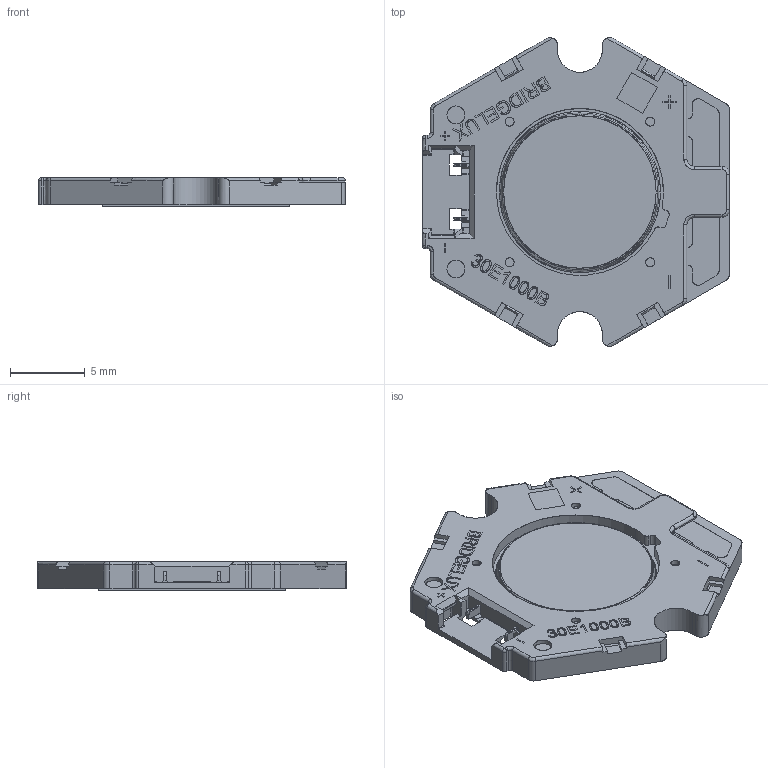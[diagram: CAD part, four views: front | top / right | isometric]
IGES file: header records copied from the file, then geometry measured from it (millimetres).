
Start section: SolidWorks IGES file using analytic representation for surfaces
Global section: file name: C:\Users\michaelsolomensky\Documents\MSdesign\Quasar\NewSubstrates\QuantumSub\I2 revA\latest\Vero10\Vero10 assy revA.IGS; native system: SolidWorks 2013; preprocessor: SolidWorks 2013; author: michaelsolomensky; date: 130702.112043; units: millimetre
Bounding box: 20.52 x 20.63 x 1.9 mm (x, y, z)
Surface area: 1381.9 mm2 (no closed solid volume)
Topology: 0 solids, 0 shells, 830 faces, 7129 edges, 7115 vertices
Faces by surface type: bspline 606, revolution 224
